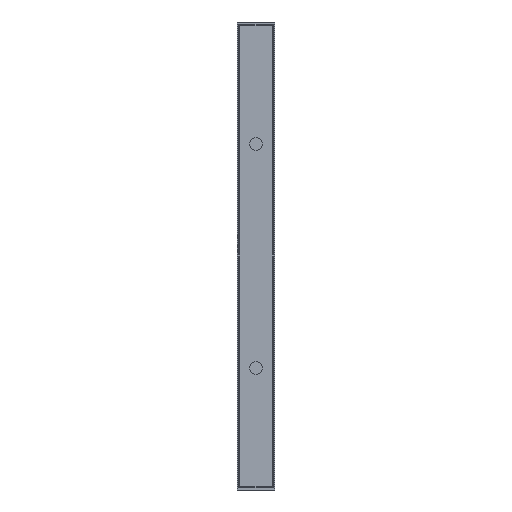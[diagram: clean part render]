
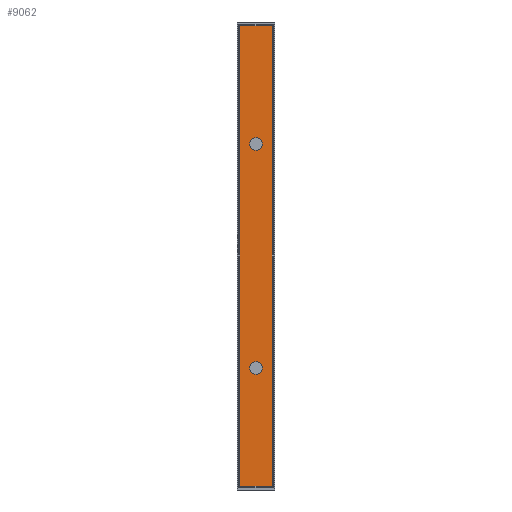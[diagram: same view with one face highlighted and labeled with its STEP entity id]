
A CAD part, front view. The second image highlights one B-rep face of the part: STEP entity #9062.
In plain terms, the highlighted planar face has unit normal (0, -1, 0).
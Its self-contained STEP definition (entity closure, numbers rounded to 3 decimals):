
#7295=CARTESIAN_POINT('',(7698.499,4612.843,-250.));
#7296=DIRECTION('',(0.,-1.,0.));
#7297=DIRECTION('',(0.,0.,-1.));
#7298=AXIS2_PLACEMENT_3D('',#7295,#7296,#7297);
#7300=CARTESIAN_POINT('',(7698.499,4612.843,-250.));
#7301=DIRECTION('',(0.,-1.,0.));
#7302=DIRECTION('',(0.,0.,1.));
#7303=AXIS2_PLACEMENT_3D('',#7300,#7301,#7302);
#7305=DIRECTION('',(1.,0.,0.));
#7306=VECTOR('',#7305,72.);
#7307=CARTESIAN_POINT('',(7662.499,4612.843,514.));
#7308=LINE('',#7307,#7306);
#7309=DIRECTION('',(-1.,0.,0.));
#7310=VECTOR('',#7309,72.);
#7311=CARTESIAN_POINT('',(7734.499,4612.843,-514.));
#7312=LINE('',#7311,#7310);
#7313=DIRECTION('',(0.,0.,1.));
#7314=VECTOR('',#7313,1028.);
#7315=CARTESIAN_POINT('',(7662.499,4612.843,-514.));
#7316=LINE('',#7315,#7314);
#7317=CARTESIAN_POINT('',(7698.499,4612.843,250.));
#7318=DIRECTION('',(0.,-1.,0.));
#7319=DIRECTION('',(0.,0.,-1.));
#7320=AXIS2_PLACEMENT_3D('',#7317,#7318,#7319);
#7322=CARTESIAN_POINT('',(7698.499,4612.843,250.));
#7323=DIRECTION('',(0.,-1.,0.));
#7324=DIRECTION('',(0.,0.,1.));
#7325=AXIS2_PLACEMENT_3D('',#7322,#7323,#7324);
#7523=DIRECTION('',(0.,0.,1.));
#7524=VECTOR('',#7523,1028.);
#7525=CARTESIAN_POINT('',(7734.499,4612.843,-514.));
#7526=LINE('',#7525,#7524);
#7823=CARTESIAN_POINT('',(7698.499,4612.843,-264.1));
#7825=VERTEX_POINT('',#7823);
#7827=CARTESIAN_POINT('',(7698.499,4612.843,-235.9));
#7829=VERTEX_POINT('',#7827);
#7831=CARTESIAN_POINT('',(7698.499,4612.843,235.9));
#7833=VERTEX_POINT('',#7831);
#7835=CARTESIAN_POINT('',(7698.499,4612.843,264.1));
#7837=VERTEX_POINT('',#7835);
#7864=CARTESIAN_POINT('',(7662.499,4612.843,-514.));
#7866=VERTEX_POINT('',#7864);
#7867=CARTESIAN_POINT('',(7734.499,4612.843,-514.));
#7869=VERTEX_POINT('',#7867);
#7920=CARTESIAN_POINT('',(7662.499,4612.843,514.));
#7922=VERTEX_POINT('',#7920);
#7923=CARTESIAN_POINT('',(7734.499,4612.843,514.));
#7925=VERTEX_POINT('',#7923);
#9038=CARTESIAN_POINT('',(7662.499,4612.843,-509.));
#9039=DIRECTION('',(0.,-1.,0.));
#9040=DIRECTION('',(1.,0.,0.));
#9041=AXIS2_PLACEMENT_3D('',#9038,#9039,#9040);
#9042=PLANE('',#9041);
#9043=ORIENTED_EDGE('',*,*,#8541,.T.);
#9045=ORIENTED_EDGE('',*,*,#9044,.F.);
#9046=ORIENTED_EDGE('',*,*,#8423,.T.);
#9047=ORIENTED_EDGE('',*,*,#9033,.T.);
#9048=EDGE_LOOP('',(#9043,#9045,#9046,#9047));
#9049=FACE_OUTER_BOUND('',#9048,.F.);
#9051=ORIENTED_EDGE('',*,*,#9050,.T.);
#9053=ORIENTED_EDGE('',*,*,#9052,.T.);
#9054=EDGE_LOOP('',(#9051,#9053));
#9055=FACE_BOUND('',#9054,.F.);
#9057=ORIENTED_EDGE('',*,*,#9056,.T.);
#9059=ORIENTED_EDGE('',*,*,#9058,.T.);
#9060=EDGE_LOOP('',(#9057,#9059));
#9061=FACE_BOUND('',#9060,.F.);
#9062=ADVANCED_FACE('',(#9049,#9055,#9061),#9042,.T.);
#7299=CIRCLE('',#7298,14.1);
#7304=CIRCLE('',#7303,14.1);
#7321=CIRCLE('',#7320,14.1);
#7326=CIRCLE('',#7325,14.1);
#8423=EDGE_CURVE('',#7869,#7866,#7312,.T.);
#8541=EDGE_CURVE('',#7922,#7925,#7308,.T.);
#9033=EDGE_CURVE('',#7866,#7922,#7316,.T.);
#9044=EDGE_CURVE('',#7869,#7925,#7526,.T.);
#9050=EDGE_CURVE('',#7825,#7829,#7299,.T.);
#9052=EDGE_CURVE('',#7829,#7825,#7304,.T.);
#9056=EDGE_CURVE('',#7833,#7837,#7321,.T.);
#9058=EDGE_CURVE('',#7837,#7833,#7326,.T.);
